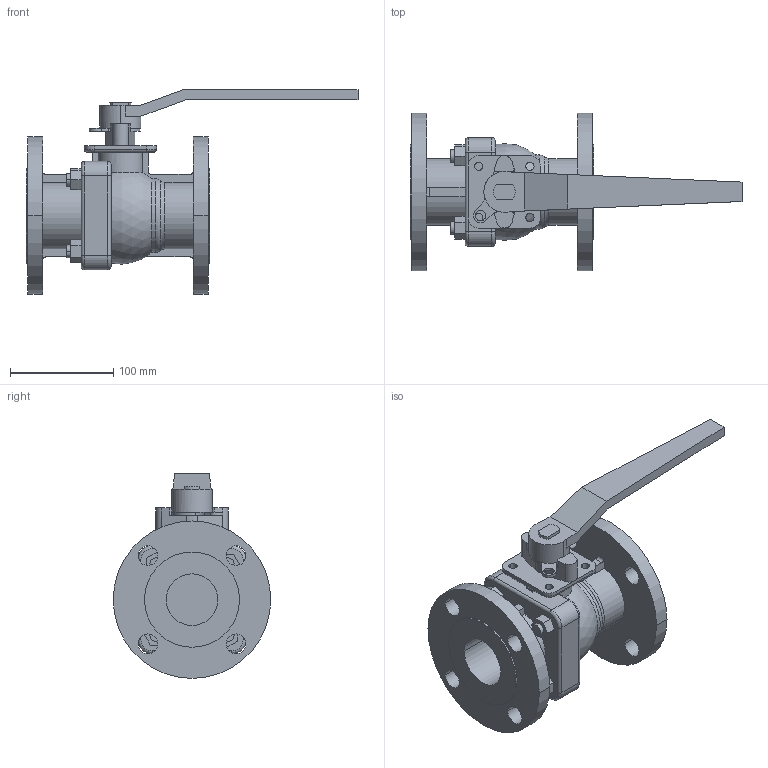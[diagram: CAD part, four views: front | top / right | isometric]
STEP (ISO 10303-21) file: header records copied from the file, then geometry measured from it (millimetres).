
FILE_DESCRIPTION( (''), '2;1');
FILE_NAME ('PC2091.16192.BLV-2SF ANSI150lb 50A_6251.stp','2026-05-28T09:08:41',(''),(''),'spGate 21.9.4 (****-****-****-****)','','');
FILE_SCHEMA (('AUTOMOTIVE_DESIGN'));
Length unit declared in the file: millimetre
Products named in the file (2): Assembly; BLV-2SFA 50A
Assembly tree (1 placements, depth 2):
  Assembly
    BLV-2SFA 50A
Bounding box: 321.3 x 152.4 x 198.2 mm (x, y, z)
Volume: 1259837.9 mm3; surface area: 196164.7 mm2
Topology: 1 solids, 1 shells, 217 faces, 567 edges, 367 vertices
Faces by surface type: plane 100, cylinder 100, bspline 16, sphere 1
Entity records: 11771 total; most frequent: CARTESIAN_POINT 1783, DIRECTION 1152, ORIENTED_EDGE 1134, COLOUR_RGB 785, PRESENTATION_STYLE_ASSIGNMENT 785, STYLED_ITEM 785, EDGE_CURVE 567, DRAUGHTING_PRE_DEFINED_CURVE_FONT 567
